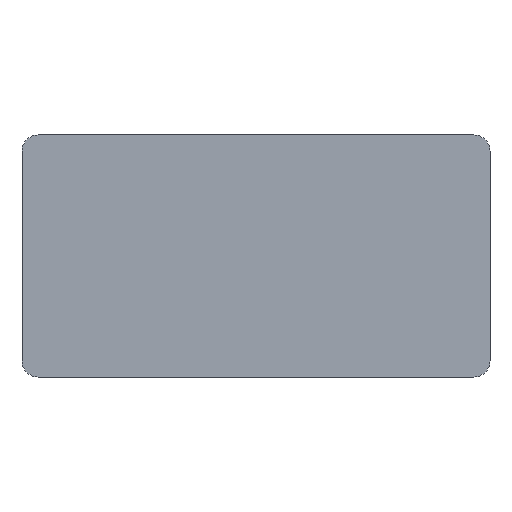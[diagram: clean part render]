
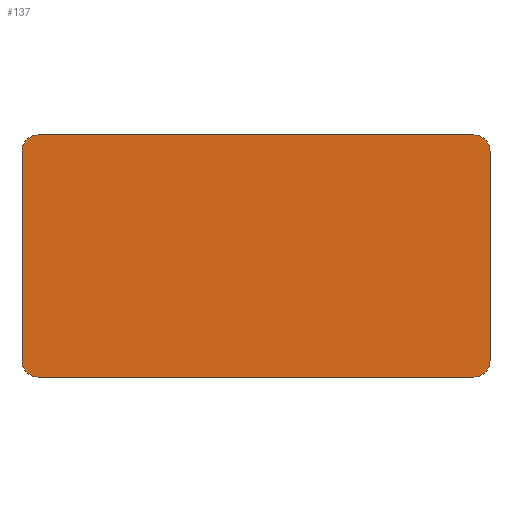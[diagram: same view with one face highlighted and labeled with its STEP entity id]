
A CAD part, top view. The second image highlights one B-rep face of the part: STEP entity #137.
In plain terms, the highlighted planar face has unit normal (0, 0, 1).
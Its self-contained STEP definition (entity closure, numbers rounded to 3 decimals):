
#21 = EDGE_CURVE('',#22,#24,#26,.T.);
#22 = VERTEX_POINT('',#23);
#23 = CARTESIAN_POINT('',(-29.,-13.,-28.4));
#24 = VERTEX_POINT('',#25);
#25 = CARTESIAN_POINT('',(-29.,13.,-28.4));
#26 = SURFACE_CURVE('',#27,(#31,#43),.PCURVE_S1.);
#27 = LINE('',#28,#29);
#28 = CARTESIAN_POINT('',(-29.,-15.,-28.4));
#29 = VECTOR('',#30,1.);
#30 = DIRECTION('',(0.,1.,0.));
#31 = PCURVE('',#32,#37);
#32 = PLANE('',#33);
#33 = AXIS2_PLACEMENT_3D('',#34,#35,#36);
#34 = CARTESIAN_POINT('',(-29.,-15.,-30.));
#35 = DIRECTION('',(1.,0.,0.));
#36 = DIRECTION('',(0.,0.,1.));
#37 = DEFINITIONAL_REPRESENTATION('',(#38),#42);
#38 = LINE('',#39,#40);
#39 = CARTESIAN_POINT('',(1.6,0.));
#40 = VECTOR('',#41,1.);
#41 = DIRECTION('',(0.,-1.));
#42 = ( GEOMETRIC_REPRESENTATION_CONTEXT(2) 
PARAMETRIC_REPRESENTATION_CONTEXT() REPRESENTATION_CONTEXT('2D SPACE',''
  ) );
#43 = PCURVE('',#44,#49);
#44 = PLANE('',#45);
#45 = AXIS2_PLACEMENT_3D('',#46,#47,#48);
#46 = CARTESIAN_POINT('',(-29.,-15.,-28.4));
#47 = DIRECTION('',(0.,0.,1.));
#48 = DIRECTION('',(1.,0.,0.));
#49 = DEFINITIONAL_REPRESENTATION('',(#50),#54);
#50 = LINE('',#51,#52);
#51 = CARTESIAN_POINT('',(0.,0.));
#52 = VECTOR('',#53,1.);
#53 = DIRECTION('',(0.,1.));
#54 = ( GEOMETRIC_REPRESENTATION_CONTEXT(2) 
PARAMETRIC_REPRESENTATION_CONTEXT() REPRESENTATION_CONTEXT('2D SPACE',''
  ) );
#72 = CYLINDRICAL_SURFACE('',#73,2.);
#73 = AXIS2_PLACEMENT_3D('',#74,#75,#76);
#74 = CARTESIAN_POINT('',(-27.,-13.,-30.));
#75 = DIRECTION('',(0.,0.,1.));
#76 = DIRECTION('',(-1.,-0.,0.));
#126 = CYLINDRICAL_SURFACE('',#127,2.);
#127 = AXIS2_PLACEMENT_3D('',#128,#129,#130);
#128 = CARTESIAN_POINT('',(-27.,13.,-30.));
#129 = DIRECTION('',(0.,0.,1.));
#130 = DIRECTION('',(-1.,-0.,0.));
#137 = ADVANCED_FACE('',(#138),#44,.T.);
#138 = FACE_BOUND('',#139,.T.);
#139 = EDGE_LOOP('',(#140,#141,#165,#193,#226,#254,#283,#311));
#140 = ORIENTED_EDGE('',*,*,#21,.F.);
#141 = ORIENTED_EDGE('',*,*,#142,.T.);
#142 = EDGE_CURVE('',#22,#143,#145,.T.);
#143 = VERTEX_POINT('',#144);
#144 = CARTESIAN_POINT('',(-27.,-15.,-28.4));
#145 = SURFACE_CURVE('',#146,(#151,#158),.PCURVE_S1.);
#146 = CIRCLE('',#147,2.);
#147 = AXIS2_PLACEMENT_3D('',#148,#149,#150);
#148 = CARTESIAN_POINT('',(-27.,-13.,-28.4));
#149 = DIRECTION('',(0.,0.,1.));
#150 = DIRECTION('',(0.,-1.,0.));
#151 = PCURVE('',#44,#152);
#152 = DEFINITIONAL_REPRESENTATION('',(#153),#157);
#153 = CIRCLE('',#154,2.);
#154 = AXIS2_PLACEMENT_2D('',#155,#156);
#155 = CARTESIAN_POINT('',(2.,2.));
#156 = DIRECTION('',(0.,-1.));
#157 = ( GEOMETRIC_REPRESENTATION_CONTEXT(2) 
PARAMETRIC_REPRESENTATION_CONTEXT() REPRESENTATION_CONTEXT('2D SPACE',''
  ) );
#158 = PCURVE('',#72,#159);
#159 = DEFINITIONAL_REPRESENTATION('',(#160),#164);
#160 = LINE('',#161,#162);
#161 = CARTESIAN_POINT('',(-4.712,1.6));
#162 = VECTOR('',#163,1.);
#163 = DIRECTION('',(1.,0.));
#164 = ( GEOMETRIC_REPRESENTATION_CONTEXT(2) 
PARAMETRIC_REPRESENTATION_CONTEXT() REPRESENTATION_CONTEXT('2D SPACE',''
  ) );
#165 = ORIENTED_EDGE('',*,*,#166,.T.);
#166 = EDGE_CURVE('',#143,#167,#169,.T.);
#167 = VERTEX_POINT('',#168);
#168 = CARTESIAN_POINT('',(27.,-15.,-28.4));
#169 = SURFACE_CURVE('',#170,(#174,#181),.PCURVE_S1.);
#170 = LINE('',#171,#172);
#171 = CARTESIAN_POINT('',(-29.,-15.,-28.4));
#172 = VECTOR('',#173,1.);
#173 = DIRECTION('',(1.,0.,0.));
#174 = PCURVE('',#44,#175);
#175 = DEFINITIONAL_REPRESENTATION('',(#176),#180);
#176 = LINE('',#177,#178);
#177 = CARTESIAN_POINT('',(0.,0.));
#178 = VECTOR('',#179,1.);
#179 = DIRECTION('',(1.,0.));
#180 = ( GEOMETRIC_REPRESENTATION_CONTEXT(2) 
PARAMETRIC_REPRESENTATION_CONTEXT() REPRESENTATION_CONTEXT('2D SPACE',''
  ) );
#181 = PCURVE('',#182,#187);
#182 = PLANE('',#183);
#183 = AXIS2_PLACEMENT_3D('',#184,#185,#186);
#184 = CARTESIAN_POINT('',(-29.,-15.,-30.));
#185 = DIRECTION('',(0.,1.,0.));
#186 = DIRECTION('',(0.,0.,1.));
#187 = DEFINITIONAL_REPRESENTATION('',(#188),#192);
#188 = LINE('',#189,#190);
#189 = CARTESIAN_POINT('',(1.6,0.));
#190 = VECTOR('',#191,1.);
#191 = DIRECTION('',(0.,1.));
#192 = ( GEOMETRIC_REPRESENTATION_CONTEXT(2) 
PARAMETRIC_REPRESENTATION_CONTEXT() REPRESENTATION_CONTEXT('2D SPACE',''
  ) );
#193 = ORIENTED_EDGE('',*,*,#194,.F.);
#194 = EDGE_CURVE('',#195,#167,#197,.T.);
#195 = VERTEX_POINT('',#196);
#196 = CARTESIAN_POINT('',(29.,-13.,-28.4));
#197 = SURFACE_CURVE('',#198,(#203,#214),.PCURVE_S1.);
#198 = CIRCLE('',#199,2.);
#199 = AXIS2_PLACEMENT_3D('',#200,#201,#202);
#200 = CARTESIAN_POINT('',(27.,-13.,-28.4));
#201 = DIRECTION('',(-0.,-0.,-1.));
#202 = DIRECTION('',(0.,-1.,0.));
#203 = PCURVE('',#44,#204);
#204 = DEFINITIONAL_REPRESENTATION('',(#205),#213);
#205 = ( BOUNDED_CURVE() B_SPLINE_CURVE(2,(#206,#207,#208,#209,#210,#211
,#212),.UNSPECIFIED.,.T.,.F.) B_SPLINE_CURVE_WITH_KNOTS((1,2,2,2,2,1),(
    -2.094,0.,2.094,4.189,6.283,
8.378),.UNSPECIFIED.) CURVE() GEOMETRIC_REPRESENTATION_ITEM() 
RATIONAL_B_SPLINE_CURVE((1.,0.5,1.,0.5,1.,0.5,1.)) REPRESENTATION_ITEM(
  '') );
#206 = CARTESIAN_POINT('',(56.,0.));
#207 = CARTESIAN_POINT('',(52.536,0.));
#208 = CARTESIAN_POINT('',(54.268,3.));
#209 = CARTESIAN_POINT('',(56.,6.));
#210 = CARTESIAN_POINT('',(57.732,3.));
#211 = CARTESIAN_POINT('',(59.464,0.));
#212 = CARTESIAN_POINT('',(56.,0.));
#213 = ( GEOMETRIC_REPRESENTATION_CONTEXT(2) 
PARAMETRIC_REPRESENTATION_CONTEXT() REPRESENTATION_CONTEXT('2D SPACE',''
  ) );
#214 = PCURVE('',#215,#220);
#215 = CYLINDRICAL_SURFACE('',#216,2.);
#216 = AXIS2_PLACEMENT_3D('',#217,#218,#219);
#217 = CARTESIAN_POINT('',(27.,-13.,-30.));
#218 = DIRECTION('',(0.,0.,1.));
#219 = DIRECTION('',(1.,0.,-0.));
#220 = DEFINITIONAL_REPRESENTATION('',(#221),#225);
#221 = LINE('',#222,#223);
#222 = CARTESIAN_POINT('',(4.712,1.6));
#223 = VECTOR('',#224,1.);
#224 = DIRECTION('',(-1.,0.));
#225 = ( GEOMETRIC_REPRESENTATION_CONTEXT(2) 
PARAMETRIC_REPRESENTATION_CONTEXT() REPRESENTATION_CONTEXT('2D SPACE',''
  ) );
#226 = ORIENTED_EDGE('',*,*,#227,.T.);
#227 = EDGE_CURVE('',#195,#228,#230,.T.);
#228 = VERTEX_POINT('',#229);
#229 = CARTESIAN_POINT('',(29.,13.,-28.4));
#230 = SURFACE_CURVE('',#231,(#235,#242),.PCURVE_S1.);
#231 = LINE('',#232,#233);
#232 = CARTESIAN_POINT('',(29.,-15.,-28.4));
#233 = VECTOR('',#234,1.);
#234 = DIRECTION('',(0.,1.,0.));
#235 = PCURVE('',#44,#236);
#236 = DEFINITIONAL_REPRESENTATION('',(#237),#241);
#237 = LINE('',#238,#239);
#238 = CARTESIAN_POINT('',(58.,0.));
#239 = VECTOR('',#240,1.);
#240 = DIRECTION('',(0.,1.));
#241 = ( GEOMETRIC_REPRESENTATION_CONTEXT(2) 
PARAMETRIC_REPRESENTATION_CONTEXT() REPRESENTATION_CONTEXT('2D SPACE',''
  ) );
#242 = PCURVE('',#243,#248);
#243 = PLANE('',#244);
#244 = AXIS2_PLACEMENT_3D('',#245,#246,#247);
#245 = CARTESIAN_POINT('',(29.,-15.,-30.));
#246 = DIRECTION('',(1.,0.,0.));
#247 = DIRECTION('',(0.,0.,1.));
#248 = DEFINITIONAL_REPRESENTATION('',(#249),#253);
#249 = LINE('',#250,#251);
#250 = CARTESIAN_POINT('',(1.6,0.));
#251 = VECTOR('',#252,1.);
#252 = DIRECTION('',(0.,-1.));
#253 = ( GEOMETRIC_REPRESENTATION_CONTEXT(2) 
PARAMETRIC_REPRESENTATION_CONTEXT() REPRESENTATION_CONTEXT('2D SPACE',''
  ) );
#254 = ORIENTED_EDGE('',*,*,#255,.T.);
#255 = EDGE_CURVE('',#228,#256,#258,.T.);
#256 = VERTEX_POINT('',#257);
#257 = CARTESIAN_POINT('',(27.,15.,-28.4));
#258 = SURFACE_CURVE('',#259,(#264,#271),.PCURVE_S1.);
#259 = CIRCLE('',#260,2.);
#260 = AXIS2_PLACEMENT_3D('',#261,#262,#263);
#261 = CARTESIAN_POINT('',(27.,13.,-28.4));
#262 = DIRECTION('',(0.,0.,1.));
#263 = DIRECTION('',(0.,-1.,0.));
#264 = PCURVE('',#44,#265);
#265 = DEFINITIONAL_REPRESENTATION('',(#266),#270);
#266 = CIRCLE('',#267,2.);
#267 = AXIS2_PLACEMENT_2D('',#268,#269);
#268 = CARTESIAN_POINT('',(56.,28.));
#269 = DIRECTION('',(0.,-1.));
#270 = ( GEOMETRIC_REPRESENTATION_CONTEXT(2) 
PARAMETRIC_REPRESENTATION_CONTEXT() REPRESENTATION_CONTEXT('2D SPACE',''
  ) );
#271 = PCURVE('',#272,#277);
#272 = CYLINDRICAL_SURFACE('',#273,2.);
#273 = AXIS2_PLACEMENT_3D('',#274,#275,#276);
#274 = CARTESIAN_POINT('',(27.,13.,-30.));
#275 = DIRECTION('',(0.,0.,1.));
#276 = DIRECTION('',(1.,0.,-0.));
#277 = DEFINITIONAL_REPRESENTATION('',(#278),#282);
#278 = LINE('',#279,#280);
#279 = CARTESIAN_POINT('',(-1.571,1.6));
#280 = VECTOR('',#281,1.);
#281 = DIRECTION('',(1.,0.));
#282 = ( GEOMETRIC_REPRESENTATION_CONTEXT(2) 
PARAMETRIC_REPRESENTATION_CONTEXT() REPRESENTATION_CONTEXT('2D SPACE',''
  ) );
#283 = ORIENTED_EDGE('',*,*,#284,.F.);
#284 = EDGE_CURVE('',#285,#256,#287,.T.);
#285 = VERTEX_POINT('',#286);
#286 = CARTESIAN_POINT('',(-27.,15.,-28.4));
#287 = SURFACE_CURVE('',#288,(#292,#299),.PCURVE_S1.);
#288 = LINE('',#289,#290);
#289 = CARTESIAN_POINT('',(-29.,15.,-28.4));
#290 = VECTOR('',#291,1.);
#291 = DIRECTION('',(1.,0.,0.));
#292 = PCURVE('',#44,#293);
#293 = DEFINITIONAL_REPRESENTATION('',(#294),#298);
#294 = LINE('',#295,#296);
#295 = CARTESIAN_POINT('',(0.,30.));
#296 = VECTOR('',#297,1.);
#297 = DIRECTION('',(1.,0.));
#298 = ( GEOMETRIC_REPRESENTATION_CONTEXT(2) 
PARAMETRIC_REPRESENTATION_CONTEXT() REPRESENTATION_CONTEXT('2D SPACE',''
  ) );
#299 = PCURVE('',#300,#305);
#300 = PLANE('',#301);
#301 = AXIS2_PLACEMENT_3D('',#302,#303,#304);
#302 = CARTESIAN_POINT('',(-29.,15.,-30.));
#303 = DIRECTION('',(0.,1.,0.));
#304 = DIRECTION('',(0.,0.,1.));
#305 = DEFINITIONAL_REPRESENTATION('',(#306),#310);
#306 = LINE('',#307,#308);
#307 = CARTESIAN_POINT('',(1.6,0.));
#308 = VECTOR('',#309,1.);
#309 = DIRECTION('',(0.,1.));
#310 = ( GEOMETRIC_REPRESENTATION_CONTEXT(2) 
PARAMETRIC_REPRESENTATION_CONTEXT() REPRESENTATION_CONTEXT('2D SPACE',''
  ) );
#311 = ORIENTED_EDGE('',*,*,#312,.F.);
#312 = EDGE_CURVE('',#24,#285,#313,.T.);
#313 = SURFACE_CURVE('',#314,(#319,#330),.PCURVE_S1.);
#314 = CIRCLE('',#315,2.);
#315 = AXIS2_PLACEMENT_3D('',#316,#317,#318);
#316 = CARTESIAN_POINT('',(-27.,13.,-28.4));
#317 = DIRECTION('',(-0.,-0.,-1.));
#318 = DIRECTION('',(0.,-1.,0.));
#319 = PCURVE('',#44,#320);
#320 = DEFINITIONAL_REPRESENTATION('',(#321),#329);
#321 = ( BOUNDED_CURVE() B_SPLINE_CURVE(2,(#322,#323,#324,#325,#326,#327
,#328),.UNSPECIFIED.,.T.,.F.) B_SPLINE_CURVE_WITH_KNOTS((1,2,2,2,2,1),(
    -2.094,0.,2.094,4.189,6.283,
8.378),.UNSPECIFIED.) CURVE() GEOMETRIC_REPRESENTATION_ITEM() 
RATIONAL_B_SPLINE_CURVE((1.,0.5,1.,0.5,1.,0.5,1.)) REPRESENTATION_ITEM(
  '') );
#322 = CARTESIAN_POINT('',(2.,26.));
#323 = CARTESIAN_POINT('',(-1.464,26.));
#324 = CARTESIAN_POINT('',(0.268,29.));
#325 = CARTESIAN_POINT('',(2.,32.));
#326 = CARTESIAN_POINT('',(3.732,29.));
#327 = CARTESIAN_POINT('',(5.464,26.));
#328 = CARTESIAN_POINT('',(2.,26.));
#329 = ( GEOMETRIC_REPRESENTATION_CONTEXT(2) 
PARAMETRIC_REPRESENTATION_CONTEXT() REPRESENTATION_CONTEXT('2D SPACE',''
  ) );
#330 = PCURVE('',#126,#331);
#331 = DEFINITIONAL_REPRESENTATION('',(#332),#336);
#332 = LINE('',#333,#334);
#333 = CARTESIAN_POINT('',(1.571,1.6));
#334 = VECTOR('',#335,1.);
#335 = DIRECTION('',(-1.,0.));
#336 = ( GEOMETRIC_REPRESENTATION_CONTEXT(2) 
PARAMETRIC_REPRESENTATION_CONTEXT() REPRESENTATION_CONTEXT('2D SPACE',''
  ) );
